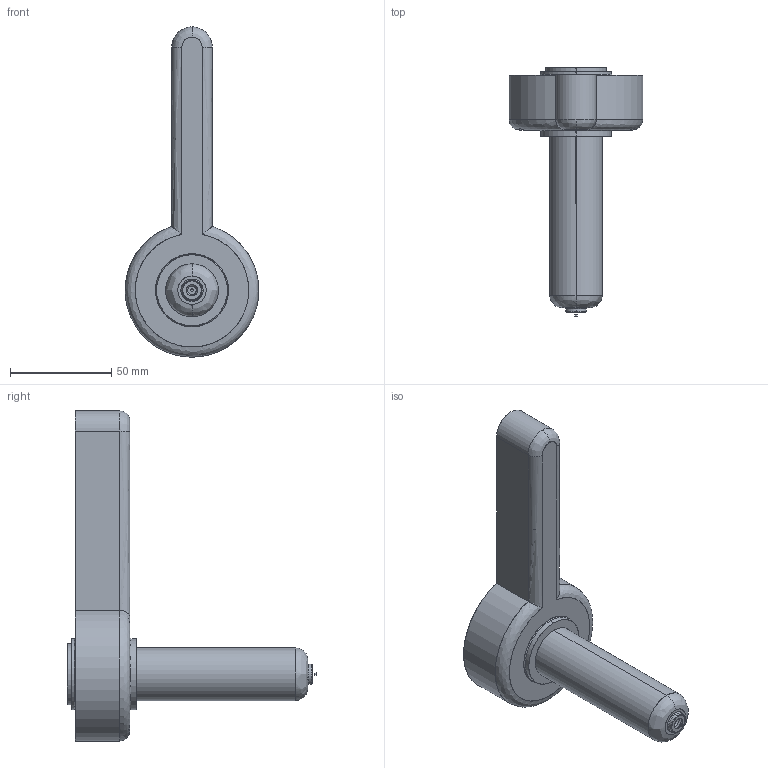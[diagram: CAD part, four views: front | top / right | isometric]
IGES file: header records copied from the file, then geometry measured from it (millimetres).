
Start section: SolidWorks IGES file using analytic representation for surfaces
Global section: file name: C:\Documents and Settings\ws-20\Desktop\TEM\Sede UGER3552-S-A C-89 L-121 Ød-1.1.IGS; native system: SolidWorks 2012; preprocessor: SolidWorks 2012; author: ws-20; date: 120410.084636; units: millimetre
Bounding box: 65.98 x 123.23 x 163 mm (x, y, z)
Surface area: 27933.6 mm2 (no closed solid volume)
Topology: 0 solids, 0 shells, 42 faces, 894 edges, 894 vertices
Faces by surface type: revolution 25, bspline 17
